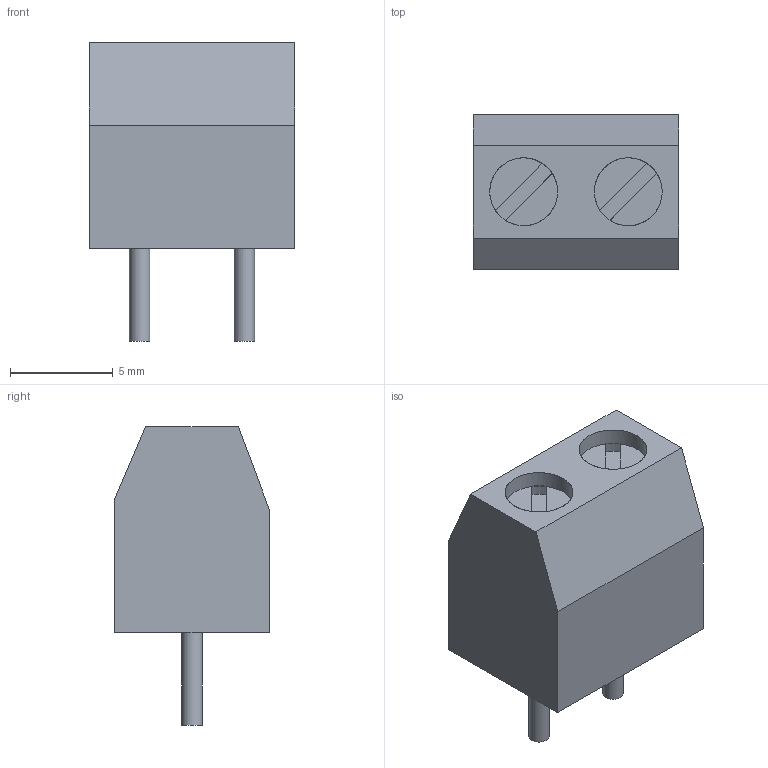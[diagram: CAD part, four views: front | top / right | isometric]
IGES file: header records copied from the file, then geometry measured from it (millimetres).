
Global section: file name: No Iges File Name specified; native system: AutoDesk Inventor R6.0; preprocessor: AutoDesk Inventor Iges Exporter R6.0; author: No Author specified; organization: No Organization specified; date: 20080102.202917; units: millimetre
Bounding box: 10 x 7.5 x 14.5 mm (x, y, z)
Surface area: 613.6 mm2 (no closed solid volume)
Topology: 0 solids, 0 shells, 46 faces, 192 edges, 186 vertices
Faces by surface type: plane 31, bspline 8, revolution 7
